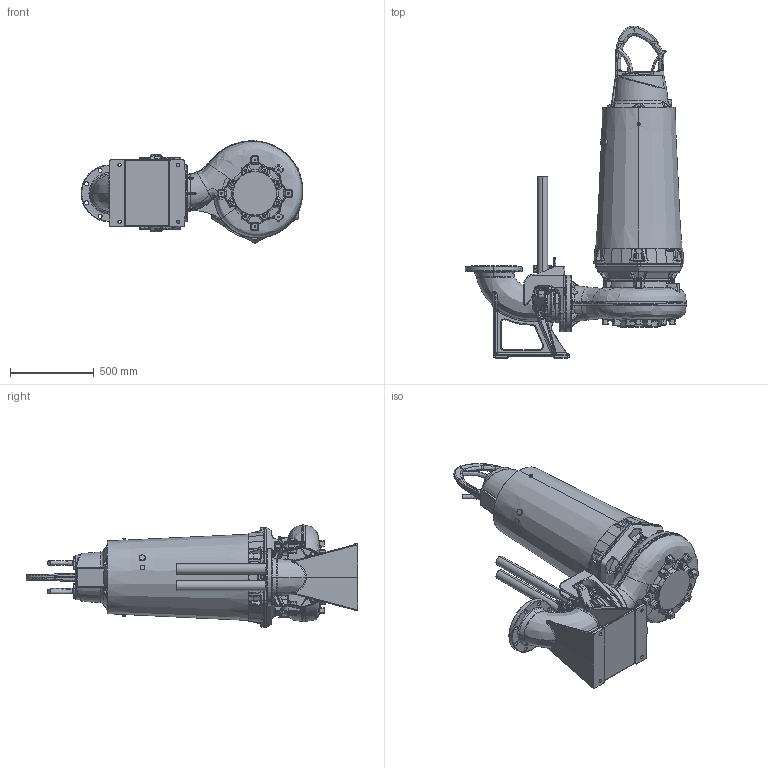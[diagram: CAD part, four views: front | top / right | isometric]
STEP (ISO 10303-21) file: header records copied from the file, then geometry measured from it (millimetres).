
FILE_DESCRIPTION (( 'STEP AP214' ), '1' );
FILE_NAME ('PE5_XFP200J-CH2_WET 2guide_A_NG2.STEP', '2017-03-15T07:57:48', ( '' ), ( '' ), 'SwSTEP 2.0', 'SolidWorks 2017', '' );
FILE_SCHEMA (( 'AUTOMOTIVE_DESIGN' ));
Length unit declared in the file: millimetre
Products named in the file (1): PE5_XFP200J-CH2_WET 2guide_A_NG2
Bounding box: 1325.82 x 1985.68 x 611.69 mm (x, y, z)
Volume: 306321280 mm3; surface area: 5553508.9 mm2
Topology: 4 solids, 4 shells, 4073 faces, 10105 edges, 5884 vertices
Faces by surface type: bspline 1494, cylinder 959, plane 755, torus 421, cone 329, sphere 115
Entity records: 266625 total; most frequent: CARTESIAN_POINT 138191, ORIENTED_EDGE 19752, DIRECTION 14743, EDGE_CURVE 9876, AXIS2_PLACEMENT_3D 6041, VERTEX_POINT 5878, EDGE_LOOP 4212, UNCERTAINTY_MEASURE_WITH_UNIT 4079
